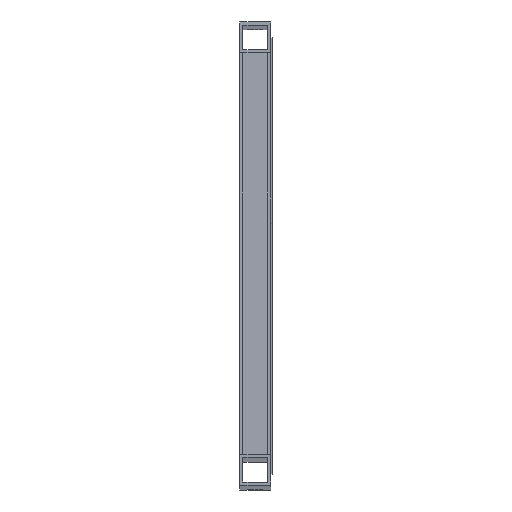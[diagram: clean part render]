
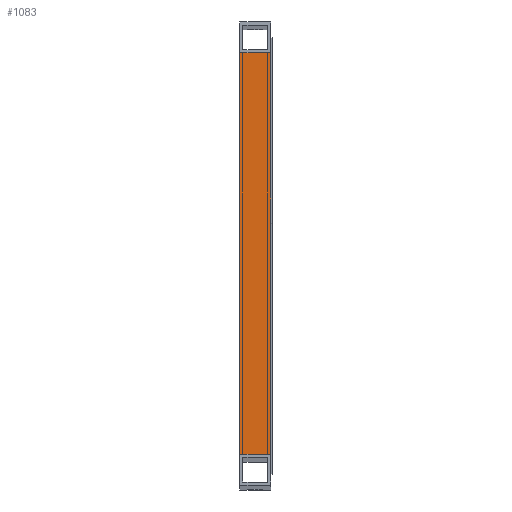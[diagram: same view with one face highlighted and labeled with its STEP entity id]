
A CAD part, top view. The second image highlights one B-rep face of the part: STEP entity #1083.
In plain terms, the highlighted planar face has unit normal (0, 0, 1) as drawn and (-1, 0, 0) by its records, which use the part's own axes.
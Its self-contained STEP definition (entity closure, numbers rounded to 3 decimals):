
#41 = DIRECTION ( 'NONE',  ( 0., 0., -1. ) ) ;
#250 = EDGE_CURVE ( 'NONE', #629, #6383, #4801, .T. ) ;
#606 = CARTESIAN_POINT ( 'NONE',  ( -10., -10., 0. ) ) ;
#629 = VERTEX_POINT ( 'NONE', #6722 ) ;
#739 = VERTEX_POINT ( 'NONE', #2057 ) ;
#1083 = ADVANCED_FACE ( 'NONE', ( #4007 ), #6882, .F. ) ;
#1268 = DIRECTION ( 'NONE',  ( 1., 0., 0. ) ) ;
#1817 = CARTESIAN_POINT ( 'NONE',  ( -10., 10., 0. ) ) ;
#2057 = CARTESIAN_POINT ( 'NONE',  ( -10., -10., 260. ) ) ;
#2560 = VECTOR ( 'NONE', #6146, 1000. ) ;
#2595 = CARTESIAN_POINT ( 'NONE',  ( -10., 10., 260. ) ) ;
#2698 = EDGE_CURVE ( 'NONE', #6383, #6187, #6463, .T. ) ;
#2785 = LINE ( 'NONE', #6918, #4089 ) ;
#2809 = EDGE_LOOP ( 'NONE', ( #8481, #4465, #7818, #8674 ) ) ;
#3252 = EDGE_CURVE ( 'NONE', #629, #739, #8583, .T. ) ;
#3390 = DIRECTION ( 'NONE',  ( 0., 0., -1. ) ) ;
#4007 = FACE_OUTER_BOUND ( 'NONE', #2809, .T. ) ;
#4089 = VECTOR ( 'NONE', #41, 1000. ) ;
#4465 = ORIENTED_EDGE ( 'NONE', *, *, #6529, .F. ) ;
#4801 = LINE ( 'NONE', #2595, #2560 ) ;
#5237 = VECTOR ( 'NONE', #6023, 1000. ) ;
#5273 = VECTOR ( 'NONE', #7045, 1000. ) ;
#5942 = CARTESIAN_POINT ( 'NONE',  ( -10., -10., 260. ) ) ;
#6007 = AXIS2_PLACEMENT_3D ( 'NONE', #8832, #1268, #3390 ) ;
#6023 = DIRECTION ( 'NONE',  ( 0., -1., 0. ) ) ;
#6146 = DIRECTION ( 'NONE',  ( 0., 0., -1. ) ) ;
#6187 = VERTEX_POINT ( 'NONE', #606 ) ;
#6383 = VERTEX_POINT ( 'NONE', #1817 ) ;
#6463 = LINE ( 'NONE', #7134, #5273 ) ;
#6529 = EDGE_CURVE ( 'NONE', #739, #6187, #2785, .T. ) ;
#6722 = CARTESIAN_POINT ( 'NONE',  ( -10., 10., 260. ) ) ;
#6882 = PLANE ( 'NONE',  #6007 ) ;
#6918 = CARTESIAN_POINT ( 'NONE',  ( -10., -10., 260. ) ) ;
#7045 = DIRECTION ( 'NONE',  ( 0., -1., 0. ) ) ;
#7134 = CARTESIAN_POINT ( 'NONE',  ( -10., -10., 0. ) ) ;
#7818 = ORIENTED_EDGE ( 'NONE', *, *, #3252, .F. ) ;
#8481 = ORIENTED_EDGE ( 'NONE', *, *, #2698, .T. ) ;
#8583 = LINE ( 'NONE', #5942, #5237 ) ;
#8674 = ORIENTED_EDGE ( 'NONE', *, *, #250, .T. ) ;
#8832 = CARTESIAN_POINT ( 'NONE',  ( -10., -10., 260. ) ) ;
